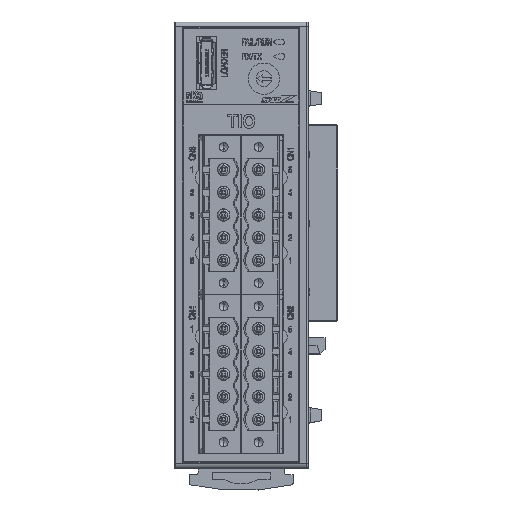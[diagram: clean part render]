
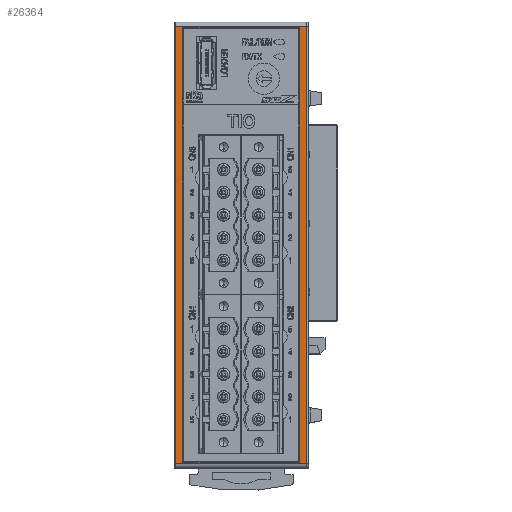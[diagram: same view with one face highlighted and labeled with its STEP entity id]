
A CAD part, top view. The second image highlights one B-rep face of the part: STEP entity #26364.
In plain terms, the highlighted planar face has unit normal (0, 0, 1).
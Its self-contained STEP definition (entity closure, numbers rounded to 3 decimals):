
#1023 = EDGE_CURVE ( 'NONE', #60208, #139534, #127988, .T. ) ;
#5834 = CARTESIAN_POINT ( 'NONE',  ( -13.05, 48.7, 76.85 ) ) ;
#7224 = VECTOR ( 'NONE', #15054, 1000. ) ;
#10040 = VERTEX_POINT ( 'NONE', #134615 ) ;
#10586 = DIRECTION ( 'NONE',  ( -1., 0., 0. ) ) ;
#12189 = EDGE_CURVE ( 'NONE', #41423, #142839, #122803, .T. ) ;
#13602 = LINE ( 'NONE', #5834, #44363 ) ;
#15054 = DIRECTION ( 'NONE',  ( 0., -1., 0. ) ) ;
#26229 = DIRECTION ( 'NONE',  ( 0., 1., 0. ) ) ;
#26364 = ADVANCED_FACE ( 'NONE', ( #52955, #145148 ), #38003, .T. ) ;
#26544 = CARTESIAN_POINT ( 'NONE',  ( -14.75, -49., 76.85 ) ) ;
#32502 = VECTOR ( 'NONE', #88673, 1000. ) ;
#37596 = DIRECTION ( 'NONE',  ( -1., 0., 0. ) ) ;
#37746 = LINE ( 'NONE', #114047, #126166 ) ;
#38003 = PLANE ( 'NONE',  #90990 ) ;
#39536 = VECTOR ( 'NONE', #95680, 1000. ) ;
#39577 = EDGE_CURVE ( 'NONE', #10040, #50642, #111090, .T. ) ;
#41423 = VERTEX_POINT ( 'NONE', #88592 ) ;
#42369 = ORIENTED_EDGE ( 'NONE', *, *, #83285, .T. ) ;
#44356 = ORIENTED_EDGE ( 'NONE', *, *, #12189, .T. ) ;
#44363 = VECTOR ( 'NONE', #86610, 1000. ) ;
#47401 = VECTOR ( 'NONE', #37596, 1000. ) ;
#49881 = VERTEX_POINT ( 'NONE', #145507 ) ;
#50642 = VERTEX_POINT ( 'NONE', #55828 ) ;
#50744 = LINE ( 'NONE', #97967, #139300 ) ;
#52764 = ORIENTED_EDGE ( 'NONE', *, *, #121651, .T. ) ;
#52955 = FACE_OUTER_BOUND ( 'NONE', #53098, .T. ) ;
#53098 = EDGE_LOOP ( 'NONE', ( #42369, #97975, #62614, #57346 ) ) ;
#55828 = CARTESIAN_POINT ( 'NONE',  ( 14.75, 49., 76.85 ) ) ;
#57346 = ORIENTED_EDGE ( 'NONE', *, *, #39577, .T. ) ;
#60208 = VERTEX_POINT ( 'NONE', #94293 ) ;
#61070 = CARTESIAN_POINT ( 'NONE',  ( 14.75, 49., 76.85 ) ) ;
#61188 = DIRECTION ( 'NONE',  ( 0., 0., 1. ) ) ;
#62614 = ORIENTED_EDGE ( 'NONE', *, *, #103363, .T. ) ;
#63182 = LINE ( 'NONE', #76613, #32502 ) ;
#73126 = EDGE_LOOP ( 'NONE', ( #52764, #44356, #128498, #117599 ) ) ;
#76613 = CARTESIAN_POINT ( 'NONE',  ( 15., -49., 76.85 ) ) ;
#77944 = CARTESIAN_POINT ( 'NONE',  ( -14.75, -49., 76.85 ) ) ;
#83285 = EDGE_CURVE ( 'NONE', #50642, #60208, #37746, .T. ) ;
#84237 = CARTESIAN_POINT ( 'NONE',  ( 13.05, 48.7, 76.85 ) ) ;
#86351 = DIRECTION ( 'NONE',  ( 0., 1., 0. ) ) ;
#86610 = DIRECTION ( 'NONE',  ( 1., 0., 0. ) ) ;
#88592 = CARTESIAN_POINT ( 'NONE',  ( 13.05, 48.7, 76.85 ) ) ;
#88673 = DIRECTION ( 'NONE',  ( 1., 0., 0. ) ) ;
#90990 = AXIS2_PLACEMENT_3D ( 'NONE', #118691, #61188, #142026 ) ;
#92601 = CARTESIAN_POINT ( 'NONE',  ( -13.05, 48.7, 76.85 ) ) ;
#94293 = CARTESIAN_POINT ( 'NONE',  ( -14.75, 49., 76.85 ) ) ;
#95680 = DIRECTION ( 'NONE',  ( 0., -1., 0. ) ) ;
#97967 = CARTESIAN_POINT ( 'NONE',  ( -13.05, -48.7, 76.85 ) ) ;
#97975 = ORIENTED_EDGE ( 'NONE', *, *, #1023, .T. ) ;
#101090 = EDGE_CURVE ( 'NONE', #142839, #49881, #135914, .T. ) ;
#102754 = EDGE_CURVE ( 'NONE', #49881, #123589, #50744, .T. ) ;
#103363 = EDGE_CURVE ( 'NONE', #139534, #10040, #63182, .T. ) ;
#111090 = LINE ( 'NONE', #61070, #138277 ) ;
#114047 = CARTESIAN_POINT ( 'NONE',  ( -15., 49., 76.85 ) ) ;
#117599 = ORIENTED_EDGE ( 'NONE', *, *, #102754, .T. ) ;
#118296 = CARTESIAN_POINT ( 'NONE',  ( 13.05, -48.7, 76.85 ) ) ;
#118691 = CARTESIAN_POINT ( 'NONE',  ( -15., -50., 76.85 ) ) ;
#121651 = EDGE_CURVE ( 'NONE', #123589, #41423, #13602, .T. ) ;
#122803 = LINE ( 'NONE', #84237, #7224 ) ;
#123589 = VERTEX_POINT ( 'NONE', #92601 ) ;
#126166 = VECTOR ( 'NONE', #10586, 1000. ) ;
#127988 = LINE ( 'NONE', #26544, #39536 ) ;
#128498 = ORIENTED_EDGE ( 'NONE', *, *, #101090, .T. ) ;
#134615 = CARTESIAN_POINT ( 'NONE',  ( 14.75, -49., 76.85 ) ) ;
#135914 = LINE ( 'NONE', #118296, #47401 ) ;
#138277 = VECTOR ( 'NONE', #26229, 1000. ) ;
#139300 = VECTOR ( 'NONE', #86351, 1000. ) ;
#139534 = VERTEX_POINT ( 'NONE', #77944 ) ;
#142026 = DIRECTION ( 'NONE',  ( 1., 0., 0. ) ) ;
#142839 = VERTEX_POINT ( 'NONE', #143008 ) ;
#143008 = CARTESIAN_POINT ( 'NONE',  ( 13.05, -48.7, 76.85 ) ) ;
#145148 = FACE_BOUND ( 'NONE', #73126, .T. ) ;
#145507 = CARTESIAN_POINT ( 'NONE',  ( -13.05, -48.7, 76.85 ) ) ;
